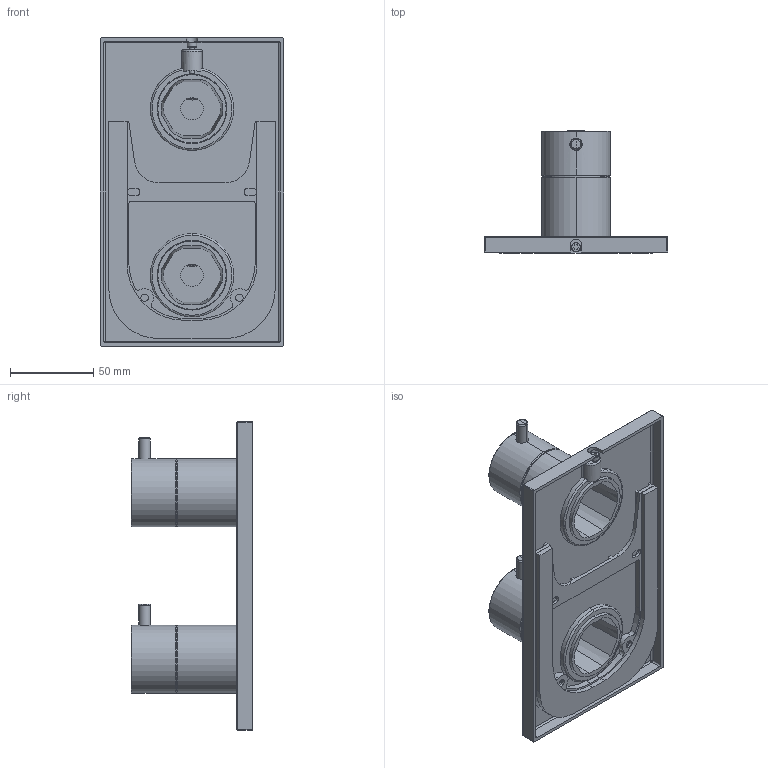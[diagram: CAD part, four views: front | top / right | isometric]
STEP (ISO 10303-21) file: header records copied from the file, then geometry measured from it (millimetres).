
FILE_DESCRIPTION((''),'2;1');
FILE_NAME('76707--00_ASM','2022-05-11T07:37:34',('lalo2'),(''),'CREO PARAMETRIC BY PTC INC, 2018190','CREO PARAMETRIC BY PTC INC, 2018190','');
FILE_SCHEMA(('CONFIG_CONTROL_DESIGN'));
Products named in the file (24): 46018--; 4497600; 4390700; 4602600; 46020--_ASM; 4612600; 4497500; 4602300_ASM; 44978--; 4498000; 46021--_ASM; 46022--; 4600600; 1904300; 44986--; 4498800; 44989--_ASM; 4498100; 46017--_ASM; 44979--; 44987--; 44990--_ASM; 76707--00_SUB01_ASM; 76707--00_ASM
Assembly tree (28 placements, depth 4):
  76707--00_ASM
    76707--00_SUB01_ASM
      46020--_ASM
        46018--
        4497600  x2
        4390700  x2
        4602600
      4602300_ASM
        4612600
        4497500
      46021--_ASM
        44978--
        4498000
      44989--_ASM
        46022--
        4600600
        1904300
        44986--
        4498800
      46017--_ASM
        44978--
        4498100
      44990--_ASM
        44979--
        4600600
        44987--
        4498800
Bounding box: 110 x 73.1 x 185 mm (x, y, z)
Volume: 136890.8 mm3; surface area: 133084.8 mm2
Topology: 21 solids, 22 shells, 2272 faces, 5985 edges, 3803 vertices
Faces by surface type: plane 1081, cylinder 626, bspline 202, torus 186, cone 111, sphere 62, revolution 4
Entity records: 74721 total; most frequent: CARTESIAN_POINT 28131, ORIENTED_EDGE 10220, DIRECTION 8854, EDGE_CURVE 5112, VERTEX_POINT 3257, AXIS2_PLACEMENT_3D 3061, VECTOR 2728, LINE 2728
